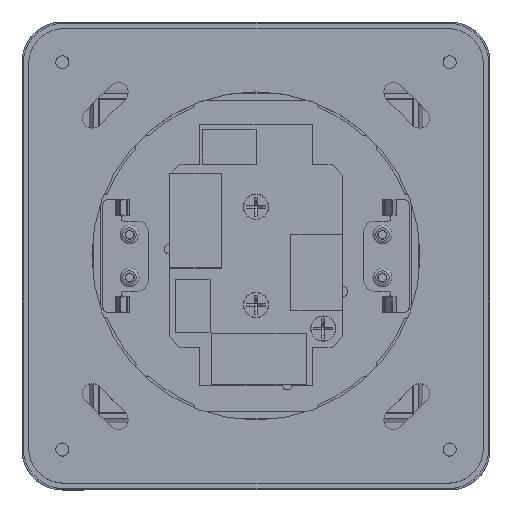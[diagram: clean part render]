
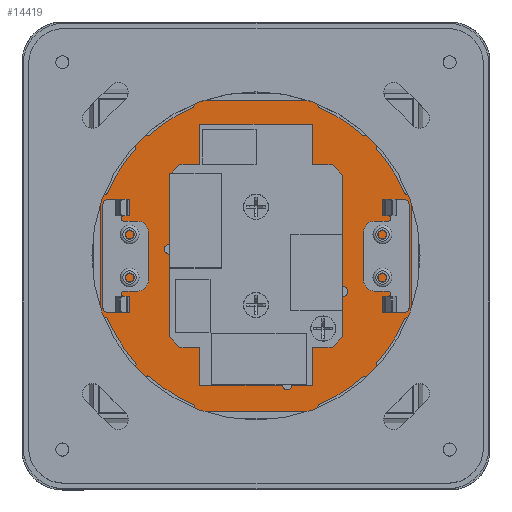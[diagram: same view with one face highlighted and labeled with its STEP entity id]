
A CAD part, top view. The second image highlights one B-rep face of the part: STEP entity #14419.
In plain terms, the highlighted planar face has unit normal (0, 0, 1).
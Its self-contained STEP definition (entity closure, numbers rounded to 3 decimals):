
#614=CIRCLE('',#15668,0.9);
#615=CIRCLE('',#15670,0.9);
#616=CIRCLE('',#15671,0.9);
#617=CIRCLE('',#15672,0.9);
#1268=PLANE('',#15669);
#1918=FACE_OUTER_BOUND('',#2756,.T.);
#2756=EDGE_LOOP('',(#11467,#11468,#11469,#11470,#11471,#11472,#11473,#11474));
#3784=LINE('',#24759,#5018);
#3785=LINE('',#24763,#5019);
#3786=LINE('',#24767,#5020);
#3787=LINE('',#24770,#5021);
#5018=VECTOR('',#18700,10.);
#5019=VECTOR('',#18703,10.);
#5020=VECTOR('',#18706,10.);
#5021=VECTOR('',#18709,10.);
#6450=VERTEX_POINT('',#24752);
#6451=VERTEX_POINT('',#24754);
#6452=VERTEX_POINT('',#24758);
#6453=VERTEX_POINT('',#24760);
#6454=VERTEX_POINT('',#24762);
#6455=VERTEX_POINT('',#24764);
#6456=VERTEX_POINT('',#24766);
#6457=VERTEX_POINT('',#24768);
#8219=EDGE_CURVE('',#6450,#6451,#614,.T.);
#8221=EDGE_CURVE('',#6452,#6450,#3784,.T.);
#8222=EDGE_CURVE('',#6453,#6452,#615,.T.);
#8223=EDGE_CURVE('',#6454,#6453,#3785,.T.);
#8224=EDGE_CURVE('',#6455,#6454,#616,.T.);
#8225=EDGE_CURVE('',#6456,#6455,#3786,.T.);
#8226=EDGE_CURVE('',#6457,#6456,#617,.T.);
#8227=EDGE_CURVE('',#6451,#6457,#3787,.T.);
#11467=ORIENTED_EDGE('',*,*,#8219,.F.);
#11468=ORIENTED_EDGE('',*,*,#8221,.F.);
#11469=ORIENTED_EDGE('',*,*,#8222,.F.);
#11470=ORIENTED_EDGE('',*,*,#8223,.F.);
#11471=ORIENTED_EDGE('',*,*,#8224,.F.);
#11472=ORIENTED_EDGE('',*,*,#8225,.F.);
#11473=ORIENTED_EDGE('',*,*,#8226,.F.);
#11474=ORIENTED_EDGE('',*,*,#8227,.F.);
#14419=ADVANCED_FACE('',(#1918),#1268,.F.);
#15668=AXIS2_PLACEMENT_3D('',#24755,#18695,#18696);
#15669=AXIS2_PLACEMENT_3D('',#24757,#18698,#18699);
#15670=AXIS2_PLACEMENT_3D('',#24761,#18701,#18702);
#15671=AXIS2_PLACEMENT_3D('',#24765,#18704,#18705);
#15672=AXIS2_PLACEMENT_3D('',#24769,#18707,#18708);
#18695=DIRECTION('center_axis',(0.,0.,
-1.));
#18696=DIRECTION('ref_axis',(0.707,0.707,0.));
#18698=DIRECTION('center_axis',(0.,0.,
-1.));
#18699=DIRECTION('ref_axis',(-1.,0.,0.));
#18700=DIRECTION('',(1.,0.,0.));
#18701=DIRECTION('center_axis',(0.,0.,
-1.));
#18702=DIRECTION('ref_axis',(-0.707,0.707,0.));
#18703=DIRECTION('',(0.,1.,0.));
#18704=DIRECTION('center_axis',(0.,0.,
-1.));
#18705=DIRECTION('ref_axis',(-0.707,-0.707,0.));
#18706=DIRECTION('',(-1.,0.,0.));
#18707=DIRECTION('center_axis',(0.,0.,
-1.));
#18708=DIRECTION('ref_axis',(0.707,-0.707,0.));
#18709=DIRECTION('',(0.,-1.,0.));
#24752=CARTESIAN_POINT('',(58.95,59.85,-2.87));
#24754=CARTESIAN_POINT('',(59.85,58.95,-2.87));
#24755=CARTESIAN_POINT('Origin',(58.95,58.95,-2.87));
#24757=CARTESIAN_POINT('Origin',(30.,30.,-2.87));
#24758=CARTESIAN_POINT('',(1.05,59.85,-2.87));
#24759=CARTESIAN_POINT('',(0.15,59.85,-2.87));
#24760=CARTESIAN_POINT('',(0.15,58.95,-2.87));
#24761=CARTESIAN_POINT('Origin',(1.05,58.95,-2.87));
#24762=CARTESIAN_POINT('',(0.15,1.05,-2.87));
#24763=CARTESIAN_POINT('',(0.15,0.15,-2.87));
#24764=CARTESIAN_POINT('',(1.05,0.15,-2.87));
#24765=CARTESIAN_POINT('Origin',(1.05,1.05,-2.87));
#24766=CARTESIAN_POINT('',(58.95,0.15,-2.87));
#24767=CARTESIAN_POINT('',(59.85,0.15,-2.87));
#24768=CARTESIAN_POINT('',(59.85,1.05,-2.87));
#24769=CARTESIAN_POINT('Origin',(58.95,1.05,-2.87));
#24770=CARTESIAN_POINT('',(59.85,59.85,-2.87));
